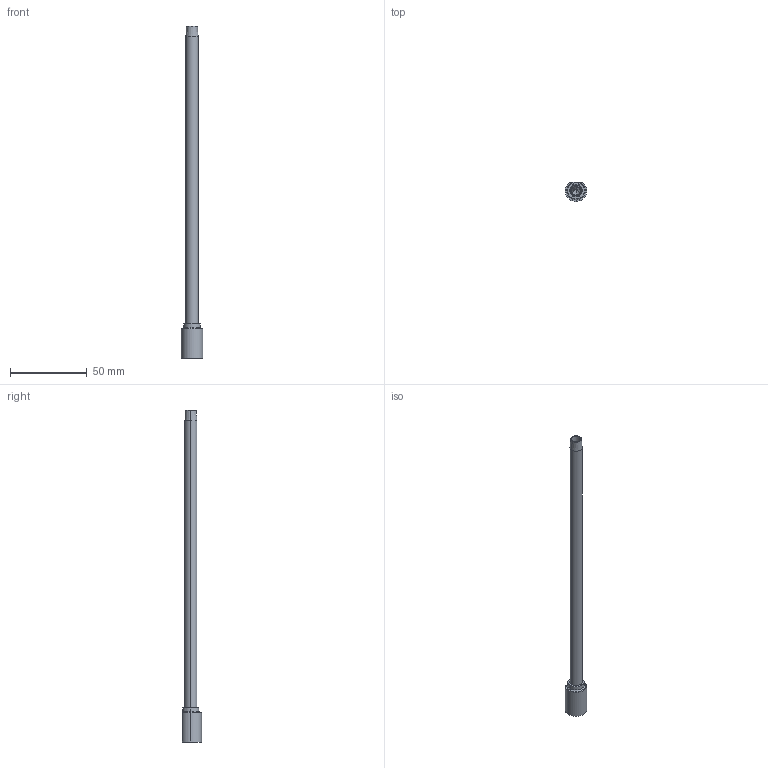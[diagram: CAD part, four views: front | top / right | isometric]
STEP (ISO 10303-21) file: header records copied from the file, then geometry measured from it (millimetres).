
FILE_DESCRIPTION (( 'STEP AP203' ), '1' );
FILE_NAME ('HKEE1616L8.5.step', '2020-08-19T06:09:11', ( 'Microsoft Corporation' ), ( 'MS' ), 'SwSTEP 2.0', 'SolidWorks 2018', '' );
FILE_SCHEMA (( 'CONFIG_CONTROL_DESIGN' ));
Length unit declared in the file: inch
Products named in the file (1): HKEE1616L8.5
Bounding box: 14.02 x 12.42 x 215.9 mm (x, y, z)
Volume: 5842 mm3; surface area: 10250 mm2
Topology: 1 solids, 1 shells, 36 faces, 87 edges, 55 vertices
Faces by surface type: plane 14, cylinder 11, cone 9, torus 2
Entity records: 1222 total; most frequent: CARTESIAN_POINT 292, DIRECTION 185, ORIENTED_EDGE 170, EDGE_CURVE 85, AXIS2_PLACEMENT_3D 72, VERTEX_POINT 55, EDGE_LOOP 42, LINE 41
